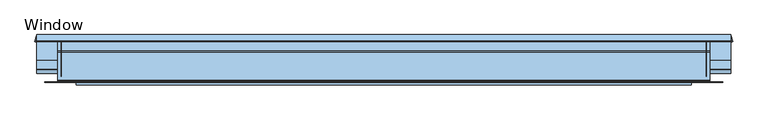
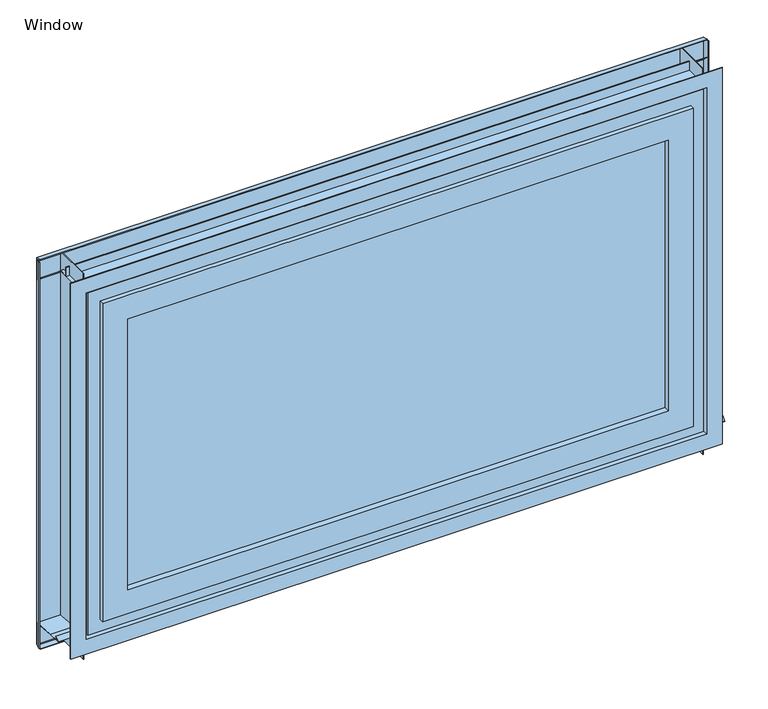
"""IFC4 building model written with IfcOpenShell, lengths in millimetres: window geometry, TE-V-06_01_Window Module i : Window."""

from ifc_helpers import new_model, si_unit, frame, origin, place, context, project, spatial, polyline, outline, extrude, faceted_brep, source, transform, mapped, element, save


def window_36470e52(model_context):
    return source(origin(), model_context, "Body", "SolidModel", [
        extrude(outline(polyline([(22.0, -59.203614), (2.6814835, -64.3799949), (2.1638454, -62.4481433), (14.7093559, -59.0865839), (15.0199387, -60.2456948), (21.2, -58.5897524), (21.2, 13.3425915), (-54.7419205, 19.9866486), (-96.6383626, 19.9866486), (-84.6660755, 31.9589358), (-84.10039, 31.3932504), (-94.7069918, 20.7866486), (-54.7069918, 20.7866486), (22.0, 14.0756565), (22.0, -59.203614)])), frame((-1064.3069308, 0.0, 0.0), z_axis=(1.0, 0.0, 0.0), x_axis=(0.0, 1.0, 0.0)), (0.0, 0.0, 1.0), 2128.6138616),
        extrude(outline(polyline([(-877.485256, -93.2430518), (877.485256, -93.2430518), (877.485256, -113.2430429), (-877.485256, -113.2430429), (-877.485256, -93.2430518)])), frame((0.0, 0.0, 127.7467864), z_axis=(0.0, 0.0, 1.0), x_axis=(1.0, 0.0, 0.0)), (0.0, 0.0, 1.0), 944.7779094),
        faceted_brep([(-906.2021017, -75.0, 1106.2021017), (-906.2021017, -58.0, 1106.2021017), (-906.2021017, -58.0, 103.7845469), (-906.2021017, -75.0, 103.7845469), (906.2021017, -58.0, 1106.2021017), (906.2021017, -58.0, 103.7845469), (-862.5, -58.0, 147.4866486), (862.5, -58.0, 147.4866486), (862.5, -58.0, 1062.5), (-862.5, -58.0, 1062.5), (906.2021017, -75.0, 103.7845469), (-914.5, -75.0, 1114.5), (914.5, -75.0, 1114.5), (914.5, -75.0, 95.4866486), (-914.5, -75.0, 95.4866486), (906.2021017, -75.0, 1106.2021017), (-914.5, -58.0, 1114.5), (-914.5, -58.0, 95.4866486), (914.5, -58.0, 95.4866486), (-982.5, -58.0, 1182.5), (982.5, -58.0, 1182.5), (982.5, -58.0, 27.4866486), (-982.5, -58.0, 27.4866486), (914.5, -58.0, 1114.5), (-982.5, -61.8, 1182.5), (-982.5, -61.8, 27.4866486), (982.5, -61.8, 27.4866486), (982.5, -61.8, 1182.5), (-974.5, -61.8, 1174.5), (974.5, -61.8, 1174.5), (974.5, -61.8, 35.4866486), (-974.5, -61.8, 35.4866486), (-974.5, -65.8, 1174.5), (-974.5, -65.8, 35.4866486), (974.5, -65.8, 35.4866486), (-982.5, -65.8, 1182.5), (982.5, -65.8, 1182.5), (982.5, -65.8, 27.4866486), (-982.5, -65.8, 27.4866486), (974.5, -65.8, 1174.5), (-982.5, -70.1, 1182.5), (-982.5, -70.1, 27.4866486), (982.5, -70.1, 27.4866486), (982.5, -70.1, 1182.5), (-974.5, -70.1, 1174.5), (974.5, -70.1, 1174.5), (974.5, -70.1, 35.4866486), (-974.5, -70.1, 35.4866486), (-974.5, -105.9, 1174.5), (-974.5, -105.9, 35.4866486), (974.5, -105.9, 35.4866486), (-982.5, -105.9, 1182.5), (982.5, -105.9, 1182.5), (982.5, -105.9, 27.4866486), (-982.5, -105.9, 27.4866486), (974.5, -105.9, 1174.5), (-982.5, -110.2, 1182.5), (-982.5, -110.2, 27.4866486), (982.5, -110.2, 27.4866486), (982.5, -110.2, 1182.5), (-974.5, -110.2, 1174.5), (974.5, -110.2, 1174.5), (974.5, -110.2, 35.4866486), (-974.5, -110.2, 35.4866486), (-974.5, -114.2, 1174.5), (-974.5, -114.2, 35.4866486), (974.5, -114.2, 35.4866486), (-982.5, -114.2, 1182.5), (982.5, -114.2, 1182.5), (982.5, -114.2, 27.4866486), (-982.5, -114.2, 27.4866486), (974.5, -114.2, 1174.5), (-982.5, -118.0, 1182.5), (-982.5, -118.0, 27.4866486), (982.5, -118.0, 27.4866486), (982.5, -118.0, 1182.5), (-934.5, -118.0, 1134.5), (934.5, -118.0, 1134.5), (934.5, -118.0, 75.4866486), (-934.5, -118.0, 75.4866486), (-934.5, -106.8, 1134.5), (-934.5, -106.8, 75.4866486), (934.5, -106.8, 75.4866486), (-940.3127684, -106.8, 1140.3127684), (940.3127684, -106.8, 1140.3127684), (940.3127684, -106.8, 69.6738803), (-940.3127684, -106.8, 69.6738803), (934.5, -106.8, 1134.5), (-940.3127684, -70.5, 1140.3127684), (-940.3127684, -70.5, 69.6738803), (940.3127684, -70.5, 69.6738803), (940.3127684, -70.5, 1140.3127684), (-922.5, -70.5, 1122.5), (922.5, -70.5, 1122.5), (922.5, -70.5, 87.4866486), (-922.5, -70.5, 87.4866486), (-922.5, -122.5, 1122.5), (-922.5, -122.5, 87.4866486), (922.5, -122.5, 87.4866486), (-940.3127684, -122.5, 1140.3127684), (940.3127684, -122.5, 1140.3127684), (940.3127684, -122.5, 69.6738803), (-940.3127684, -122.5, 69.6738803), (922.5, -122.5, 1122.5), (-940.3127684, -118.7588936, 1140.3127684), (-940.3127684, -118.7588936, 69.6738803), (940.3127684, -118.7588936, 69.6738803), (-942.5, -118.7588936, 1142.5), (942.5, -118.7588936, 1142.5), (942.5, -118.7588936, 67.4866486), (-942.5, -118.7588936, 67.4866486), (940.3127684, -118.7588936, 1140.3127684), (-942.5, -132.5, 1142.5), (-942.5, -132.5, 67.4866486), (942.5, -132.5, 67.4866486), (942.5, -132.5, 1142.5), (-862.5, -132.5, 1062.5), (862.5, -132.5, 1062.5), (862.5, -132.5, 147.4866486), (-862.5, -132.5, 147.4866486), (-862.5, -112.9998708, 1062.5), (-862.5, -112.9998708, 147.4866486), (862.5, -112.9998708, 147.4866486), (-877.485256, -112.9998708, 1077.485256), (877.485256, -112.9998708, 1077.485256), (877.485256, -112.9998708, 132.5013927), (-877.485256, -112.9998708, 132.5013927), (862.5, -112.9998708, 1062.5), (-877.485256, -92.9998796, 1077.485256), (-877.485256, -92.9998796, 132.5013927), (877.485256, -92.9998796, 132.5013927), (877.485256, -92.9998796, 1077.485256), (-862.5, -92.9998796, 1062.5), (862.5, -92.9998796, 1062.5), (862.5, -92.9998796, 147.4866486), (-862.5, -92.9998796, 147.4866486)], [[[0, 1, 2, 3]], [[1, 4, 5, 2], [6, 7, 8, 9]], [[3, 2, 5, 10]], [[11, 12, 13, 14], [3, 10, 15, 0]], [[16, 11, 14, 17]], [[17, 14, 13, 18]], [[19, 20, 21, 22], [17, 18, 23, 16]], [[24, 19, 22, 25]], [[25, 22, 21, 26]], [[25, 26, 27, 24], [28, 29, 30, 31]], [[32, 28, 31, 33]], [[33, 31, 30, 34]], [[35, 36, 37, 38], [33, 34, 39, 32]], [[40, 35, 38, 41]], [[41, 38, 37, 42]], [[41, 42, 43, 40], [44, 45, 46, 47]], [[48, 44, 47, 49]], [[49, 47, 46, 50]], [[51, 52, 53, 54], [49, 50, 55, 48]], [[56, 51, 54, 57]], [[57, 54, 53, 58]], [[57, 58, 59, 56], [60, 61, 62, 63]], [[64, 60, 63, 65]], [[65, 63, 62, 66]], [[67, 68, 69, 70], [65, 66, 71, 64]], [[72, 67, 70, 73]], [[73, 70, 69, 74]], [[73, 74, 75, 72], [76, 77, 78, 79]], [[80, 76, 79, 81]], [[81, 79, 78, 82]], [[83, 84, 85, 86], [81, 82, 87, 80]], [[88, 83, 86, 89]], [[89, 86, 85, 90]], [[89, 90, 91, 88], [92, 93, 94, 95]], [[96, 92, 95, 97]], [[97, 95, 94, 98]], [[99, 100, 101, 102], [97, 98, 103, 96]], [[104, 99, 102, 105]], [[105, 102, 101, 106]], [[107, 108, 109, 110], [105, 106, 111, 104]], [[112, 107, 110, 113]], [[113, 110, 109, 114]], [[113, 114, 115, 112], [116, 117, 118, 119]], [[120, 116, 119, 121]], [[121, 119, 118, 122]], [[123, 124, 125, 126], [121, 122, 127, 120]], [[128, 123, 126, 129]], [[129, 126, 125, 130]], [[129, 130, 131, 128], [132, 133, 134, 135]], [[9, 132, 135, 6]], [[6, 135, 134, 7]], [[10, 5, 4, 15]], [[18, 13, 12, 23]], [[26, 21, 20, 27]], [[34, 30, 29, 39]], [[42, 37, 36, 43]], [[50, 46, 45, 55]], [[58, 53, 52, 59]], [[66, 62, 61, 71]], [[74, 69, 68, 75]], [[82, 78, 77, 87]], [[90, 85, 84, 91]], [[98, 94, 93, 103]], [[106, 101, 100, 111]], [[114, 109, 108, 115]], [[122, 118, 117, 127]], [[130, 125, 124, 131]], [[7, 134, 133, 8]], [[15, 4, 1, 0]], [[23, 12, 11, 16]], [[27, 20, 19, 24]], [[39, 29, 28, 32]], [[43, 36, 35, 40]], [[55, 45, 44, 48]], [[59, 52, 51, 56]], [[71, 61, 60, 64]], [[75, 68, 67, 72]], [[87, 77, 76, 80]], [[91, 84, 83, 88]], [[103, 93, 92, 96]], [[111, 100, 99, 104]], [[115, 108, 107, 112]], [[127, 117, 116, 120]], [[131, 124, 123, 128]], [[8, 133, 132, 9]]]),
        faceted_brep([(-990.0, -72.9856649, 1190.0), (-990.0, -124.9856649, 1190.0), (-990.0, -124.9856649, 19.9866486), (-990.0, -72.9856649, 19.9866486), (990.0, -124.9856649, 19.9866486), (990.0, -72.9856649, 19.9866486), (1040.0, -124.9856649, -30.0133514), (1040.0, -124.9856649, 1240.0), (-1040.0, -124.9856649, 1240.0), (-1040.0, -124.9856649, -30.0133514), (990.0, -124.9856649, 1190.0), (990.0, -72.9856649, 1190.0), (-992.0, -72.9856649, 17.9866486), (-992.0, -72.9856649, 1192.0), (992.0, -72.9856649, 1192.0), (992.0, -72.9856649, 17.9866486), (-992.0, -122.9856649, 1192.0), (-992.0, -122.9856649, 17.9866486), (992.0, -122.9856649, 17.9866486), (992.0, -122.9856649, 1192.0), (-1040.0, -122.9856649, -30.0133514), (-1040.0, -122.9856649, 1240.0), (1040.0, -122.9856649, 1240.0), (1040.0, -122.9856649, -30.0133514)], [[[0, 1, 2, 3]], [[3, 2, 4, 5]], [[6, 7, 8, 9], [2, 1, 10, 4]], [[5, 4, 10, 11]], [[12, 13, 14, 15], [5, 11, 0, 3]], [[16, 13, 12, 17]], [[17, 12, 15, 18]], [[18, 15, 14, 19]], [[20, 21, 22, 23], [18, 19, 16, 17]], [[8, 21, 20, 9]], [[9, 20, 23, 6]], [[6, 23, 22, 7]], [[11, 10, 1, 0]], [[19, 14, 13, 16]], [[7, 22, 21, 8]]]),
        extrude(outline(polyline([(19.2828427, 1174.7828427), (18.7171573, 1174.2171573), (1.156645, 1191.7776695), (-29.0776695, 1191.7776695), (-29.0776695, 1221.7776695), (-30.2776695, 1221.7776695), (-30.2776695, 1191.7776695), (-119.0315596, 1191.7776695), (-121.5120749, 1211.9798448), (-120.7180379, 1212.0773403), (-118.3237794, 1192.5776695), (-31.0776695, 1192.5776695), (-31.0776695, 1222.5776695), (-28.2776695, 1222.5776695), (-28.2776695, 1192.5776695), (1.4880159, 1192.5776695), (19.2828427, 1174.7828427)])), frame((-1000.0, 0.0, 0.0), z_axis=(1.0, 0.0, 0.0), x_axis=(0.0, 1.0, 0.0)), (0.0, 0.0, 1.0), 2000.0),
        extrude(outline(polyline([(19.2540379, 1244.4721568), (19.0469826, 1243.6994161), (1.2739474, 1248.4616865), (1.9986408, 1251.1662789), (22.0, 1245.8069308), (22.0, 1169.5343146), (3.6394878, 1187.8948268), (4.2051732, 1188.4605122), (21.2, 1171.4656854), (21.2, 1245.1930692), (2.5643262, 1250.186483), (2.2537433, 1249.027372), (19.2540379, 1244.4721568)])), frame((-1064.3069308, 0.0, 0.0), z_axis=(1.0, 0.0, 0.0), x_axis=(0.0, 1.0, 0.0)), (0.0, 0.0, 1.0), 2128.6138616),
        extrude(outline(polyline([(-1062.1994161, 17.9469826), (-1066.9616865, 0.1739474), (-1069.6662789, 0.8986408), (-1064.3069308, 20.9), (-988.6, 20.9), (-988.6, -106.5), (-989.4, -106.5), (-989.4, 20.1), (-1063.6930692, 20.1), (-1068.686483, 1.4643262), (-1067.527372, 1.1537433), (-1062.9721568, 18.1540379), (-1062.1994161, 17.9469826)])), frame((0.0, 0.0, -59.2612267), z_axis=(0.0, 0.0, 1.0), x_axis=(1.0, 0.0, 0.0)), (0.0, 0.0, 1.0), 1302.9606428),
        extrude(outline(polyline([(1062.1994161, 17.9469826), (1062.9721568, 18.1540379), (1067.527372, 1.1537433), (1068.686483, 1.4643262), (1063.6930692, 20.1), (989.4, 20.1), (989.4, -106.5), (988.6, -106.5), (988.6, 20.9), (1064.3069308, 20.9), (1069.6662789, 0.8986408), (1066.9616865, 0.1739474), (1062.1994161, 17.9469826)])), frame((0.0, 0.0, -59.2612267), z_axis=(0.0, 0.0, 1.0), x_axis=(1.0, 0.0, 0.0)), (0.0, 0.0, 1.0), 1302.9606428),
    ])


if __name__ == "__main__":
    model = new_model("IFC4")
    model_context = context("Model", 3, world=origin())
    ifc_project = project(units=[si_unit("LENGTHUNIT", "METRE", prefix="MILLI")], contexts=[model_context])
    site = spatial("IfcSite", under=ifc_project)
    building = spatial("IfcBuilding", under=site)
    placement = place(None, origin())
    window_shape = window_36470e52(model_context)
    element("IfcWindow", 1, ObjectType="TE-V-06_01_Window Module i : Window", at=placement, inside=building, context=model_context, shape_type="MappedRepresentation", body=[
        mapped(window_shape, transform((0.0, 0.0, 0.0), x_axis=(1.0, 0.0, 0.0), y_axis=(0.0, 1.0, 0.0), z_axis=(0.0, 0.0, 1.0))),
    ])
    save(model, "model.ifc")
